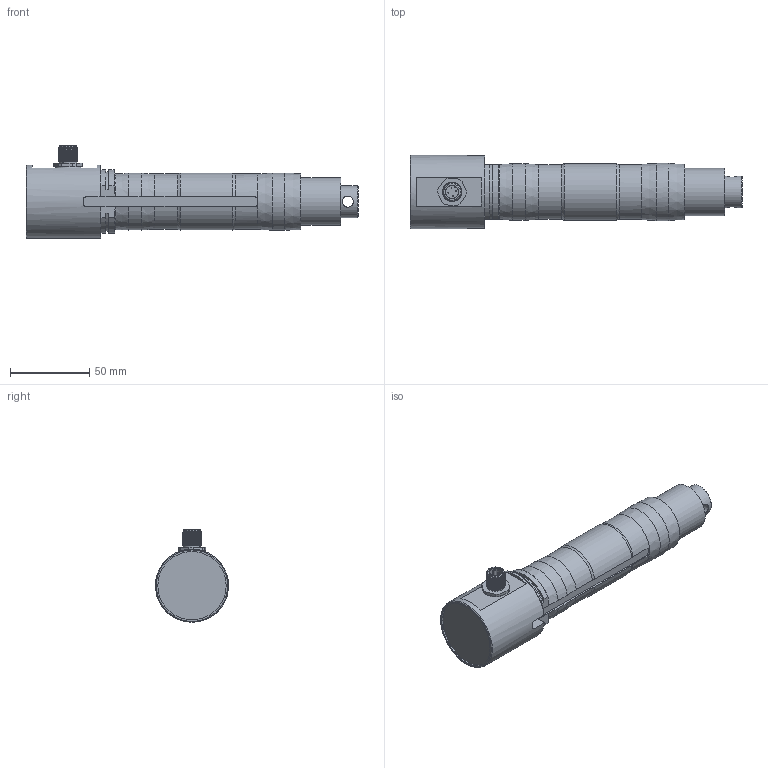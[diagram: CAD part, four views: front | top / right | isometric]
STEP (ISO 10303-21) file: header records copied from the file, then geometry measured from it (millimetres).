
FILE_DESCRIPTION(/* description */ ('Alibre Inc.'),/* implementation_level */ '2;1');
FILE_NAME(/* name */ 'export-6575E71C-15F9-44AB-ADB9-27117C78781D',/* time_stamp */ '2019-03-28T11:23:22+01:00',/* author */ (''),/* organization */ (''),/* preprocessor_version */ 'ST-DEVELOPER v17',/* originating_system */ 'Alibre',/* authorisation */ '');
FILE_SCHEMA (('CONFIG_CONTROL_DESIGN'));
Length unit declared in the file: centimetre
Products named in the file (3): ID_1
Bounding box: 209 x 46 x 58.17 mm (x, y, z)
Volume: 280784.3 mm3; surface area: 104114.8 mm2
Topology: 6 solids, 7 shells, 181 faces, 430 edges, 273 vertices
Faces by surface type: plane 73, cylinder 61, bspline 23, cone 16, torus 8
Full cylindrical faces by diameter (mm): 0.5 x8, 7 x1, 8 x2, 10 x2, 11 x1, 11.5 x1, 13 x2, 14.5 x1, 20 x1, 30 x1, 36 x1, 43 x1, 46 x1
Entity records: 15403 total; most frequent: CARTESIAN_POINT 11747, ORIENTED_EDGE 778, DIRECTION 500, EDGE_CURVE 382, VERTEX_POINT 258, EDGE_LOOP 238, FACE_BOUND 238, AXIS2_PLACEMENT_3D 216
